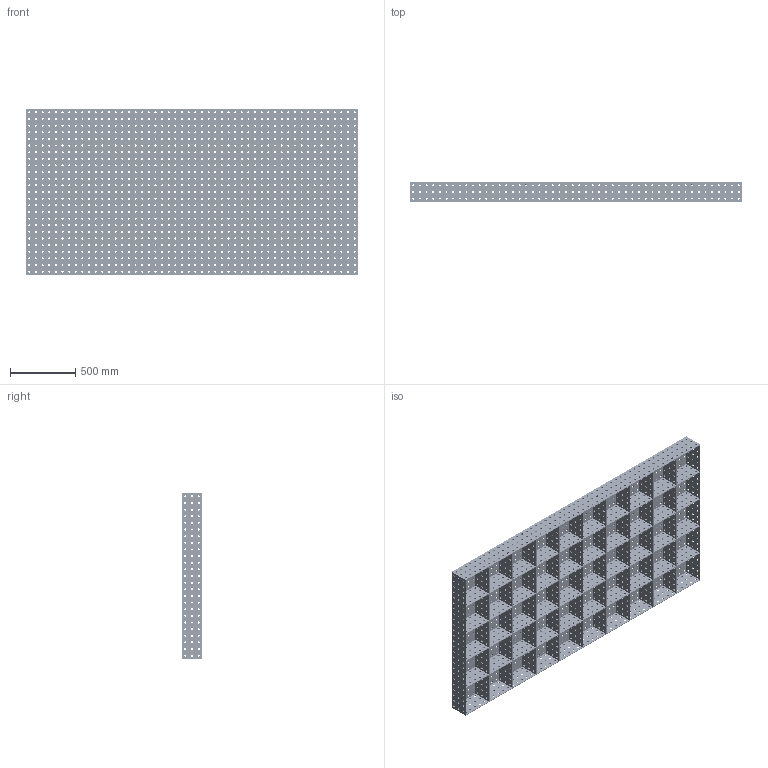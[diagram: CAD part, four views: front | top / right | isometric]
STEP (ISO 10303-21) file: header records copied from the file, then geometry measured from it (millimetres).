
FILE_DESCRIPTION (( 'STEP AP203' ), '1' );
FILE_NAME ('50x100.STEP', '2025-06-10T15:35:47', ( '' ), ( '' ), 'SwSTEP 2.0', 'SolidWorks 2023', '' );
FILE_SCHEMA (( 'CONFIG_CONTROL_DESIGN' ));
Products named in the file (1): 50x100
Bounding box: 2540 x 152.4 x 1270 mm (x, y, z)
Volume: 45478429.4 mm3; surface area: 14601336.4 mm2
Topology: 1 solids, 1 shells, 6206 faces, 18462 edges, 12308 vertices
Faces by surface type: cylinder 5950, plane 256
Entity records: 227485 total; most frequent: DIRECTION 42776, CARTESIAN_POINT 36977, ORIENTED_EDGE 36924, EDGE_CURVE 18462, AXIS2_PLACEMENT_3D 18107, VERTEX_POINT 12308, EDGE_LOOP 12206, CIRCLE 11900
